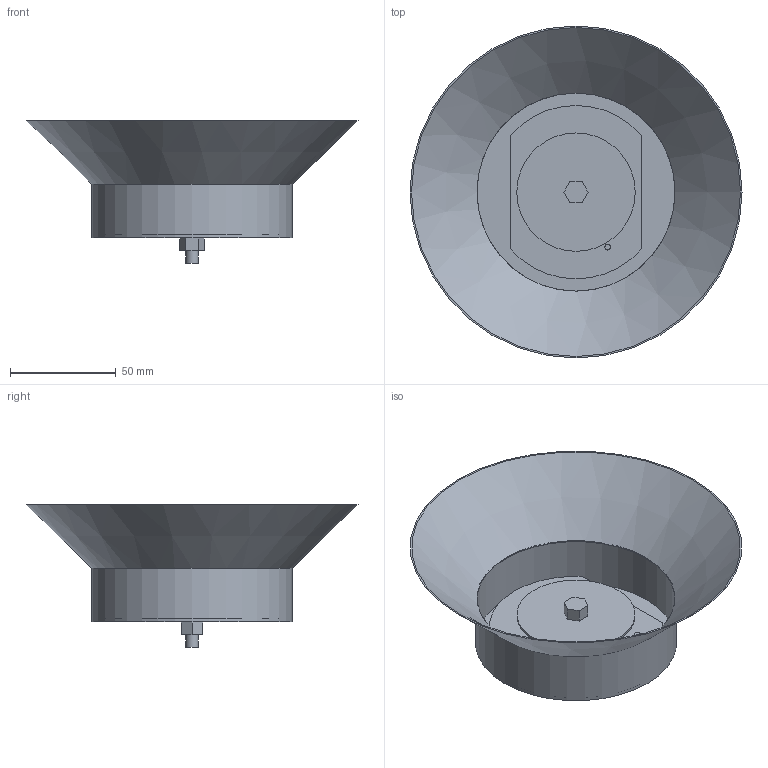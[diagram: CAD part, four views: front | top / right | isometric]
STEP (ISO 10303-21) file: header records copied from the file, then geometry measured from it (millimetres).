
FILE_DESCRIPTION((''),'2;1');
FILE_NAME('D:\Autodesk Invertor 2011\Projects2014\Antenna\Patch2100\P2100BaxJR.stp','2014-07-09T21:42:43',('Evgeny'),(''),'Autodesk Inventor 2011','Autodesk Inventor 2011','');
FILE_SCHEMA(('AUTOMOTIVE_DESIGN { 1 0 10303 214 1 1 1 1 }'));
Length unit declared in the file: millimetre
Products named in the file (1): P2100BaxJR
Bounding box: 157 x 157 x 67.5 mm (x, y, z)
Volume: 31534.6 mm3; surface area: 78215.2 mm2
Topology: 1 solids, 1 shells, 40 faces, 81 edges, 54 vertices
Faces by surface type: plane 27, cylinder 11, cone 2
Full cylindrical faces by diameter (mm): 2.7 x2, 6 x1, 8 x3, 56 x1, 94 x1, 95 x1
Entity records: 1016 total; most frequent: DIRECTION 176, CARTESIAN_POINT 163, ORIENTED_EDGE 138, EDGE_CURVE 69, AXIS2_PLACEMENT_3D 66, EDGE_LOOP 64, VERTEX_POINT 53, VECTOR 44
